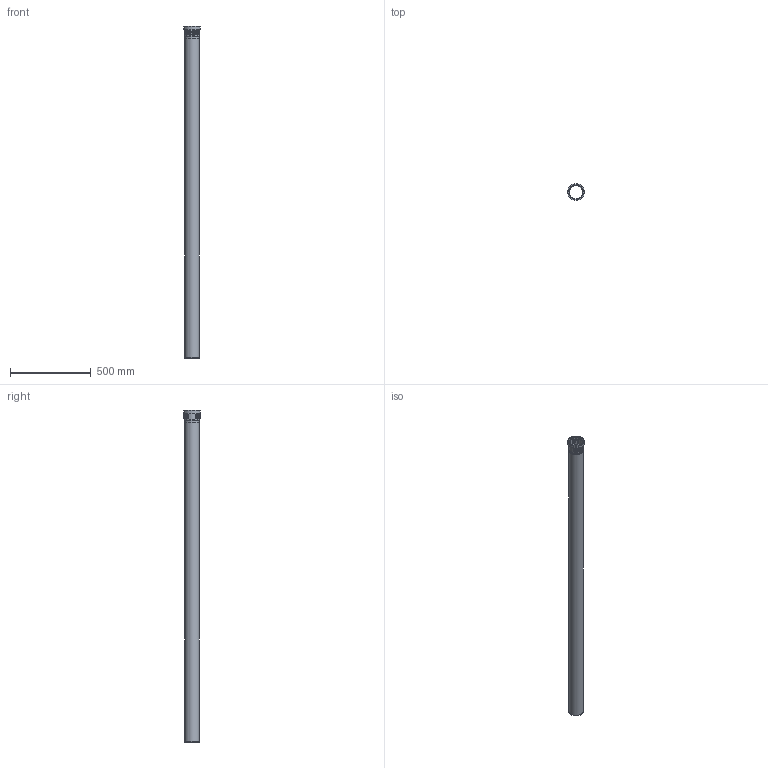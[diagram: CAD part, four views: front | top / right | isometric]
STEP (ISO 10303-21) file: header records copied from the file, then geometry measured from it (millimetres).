
FILE_DESCRIPTION(/* description */ (''),/* implementation_level */ '2;1');
FILE_NAME(/* name */ 'Z:\Geberit\Export\NewStep\390406.stp',/* time_stamp */ '2014-04-02T08:12:23+02:00',/* author */ ('ML'),/* organization */ (''),/* preprocessor_version */ 'ST-DEVELOPER v15.2',/* originating_system */ 'Autodesk Inventor 2014',/* authorisation */ '');
FILE_SCHEMA (('AUTOMOTIVE_DESIGN { 1 0 10303 214 3 1 1 }'));
Length unit declared in the file: millimetre
Products named in the file (3): 861436; 861584ohne; 390406
Bounding box: 105.4 x 105.4 x 2061 mm (x, y, z)
Volume: 1771838.9 mm3; surface area: 1147327.8 mm2
Topology: 2 solids, 2 shells, 47 faces, 104 edges, 71 vertices
Faces by surface type: torus 24, cylinder 11, plane 10, cone 2
Full cylindrical faces by diameter (mm): 84 x2, 90.2 x2, 91 x2, 94.1 x1, 97.2 x2, 99.2 x1, 105.4 x1
Entity records: 2003 total; most frequent: CARTESIAN_POINT 962, DIRECTION 182, ORIENTED_EDGE 174, AXIS2_PLACEMENT_3D 91, EDGE_CURVE 87, EDGE_LOOP 78, VERTEX_POINT 71, STYLED_ITEM 49
